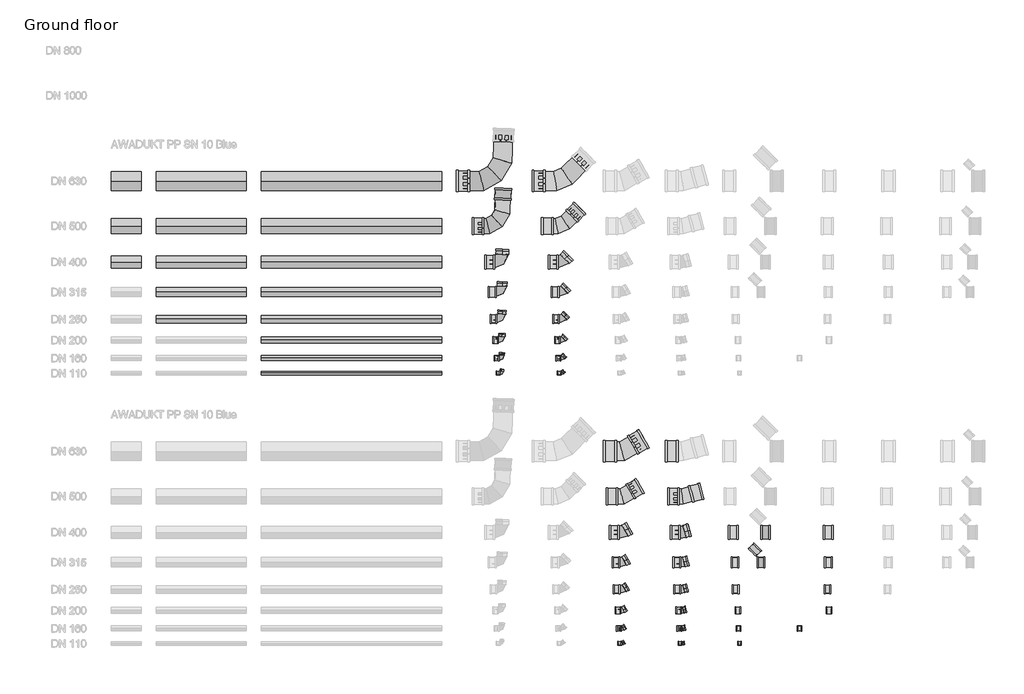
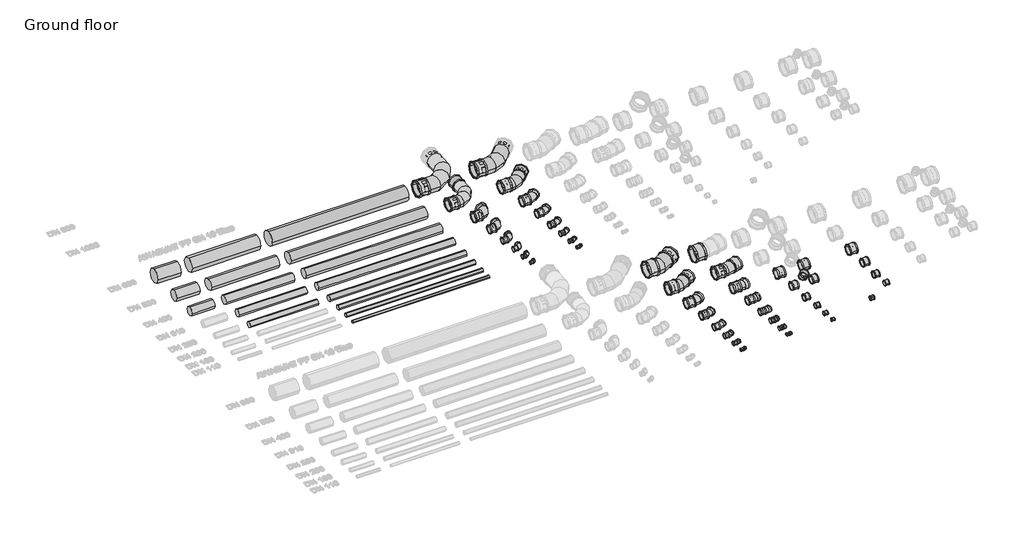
# One storey, part 2 of 10: 82 pipe fittings, 16 pipe segments.
"""IFC4 building model written with IfcOpenShell, lengths in millimetres."""

from ifc_helpers import new_model, si_unit, point, frame, frame_2d, origin, place, context, project, spatial, circle_curve, trimmed, segment, composite_curve, outline, extrude, transform, mapped, element, save
from components import pipe_fitting_e5a81f0f, pipe_fitting_366f8f33, pipe_fitting_0ebad727, pipe_fitting_3dc9645f, pipe_fitting_b5a722ff, pipe_fitting_a818c1c7, pipe_fitting_9bc79c39, pipe_fitting_2c23b5e5, blue_8c50e030, blue_66bd3a30, blue_cd4b49a2, blue_58710f0b, blue_3e8714aa, blue_1fd363ef, blue_119fea42, blue_49925300, blue_168d1bee, blue_045a93d3, blue_ad261573, blue_5f6e9122, blue_fd0dfc69, blue_0a20ea5d, blue_b37b0867, blue_8a6e1d2f, blue_a2c14ece, blue_55e6ac91, blue_4c46b765, blue_4c692024, blue_db9835d6, blue_7109e013, blue_6a90c062, blue_68ca3d6e, blue_9c2ccc73, blue_e60a5e92, blue_be0330f0, orange_dd9ac047, orange_127dd680, blue_0398ec3c, orange_d04369bb

model = new_model("IFC4")

# Units and contexts
model_context = context("Model", 3, world=origin())
ifc_project = project(units=[si_unit("LENGTHUNIT", "METRE", prefix="MILLI")], contexts=[model_context])

# Site, building, storey
site = spatial("IfcSite", under=ifc_project)
building = spatial("IfcBuilding", under=site)
storey = spatial("IfcBuildingStorey", under=building, Name="Ground floor", Elevation=0.0)

# Pipe fittings
placement = place(None, origin())
pipe_fitting_shape = pipe_fitting_e5a81f0f(model_context)
element("IfcPipeFitting", 1, ObjectType="AWADUKT PP Union DSM : Orange No PID", at=placement, inside=storey, context=model_context, shape_type="MappedRepresentation", body=[
    mapped(pipe_fitting_shape, transform((12677.0, 11700.0, 0.0), x_axis=(1.0, 0.0, 0.0), y_axis=(0.0, 1.0, 0.0), z_axis=(0.0, 0.0, 1.0))),
])
element("IfcPipeFitting", 2, ObjectType="AWADUKT PP Union DSM : Orange No PID", at=placement, inside=storey, context=model_context, shape_type="MappedRepresentation", body=[
    mapped(pipe_fitting_shape, transform((14771.0, 11700.0, 0.0), x_axis=(1.0, 0.0, 0.0), y_axis=(0.0, 1.0, 0.0), z_axis=(0.0, 0.0, 1.0))),
])
pipe_fitting_2_shape = pipe_fitting_366f8f33(model_context)
element("IfcPipeFitting", 3, ObjectType="AWADUKT PP Union DSM : Blue No PID", at=placement, inside=storey, context=model_context, shape_type="MappedRepresentation", body=[
    mapped(pipe_fitting_2_shape, transform((17534.3376741, 6708.5, 0.0), x_axis=(0.8660254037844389, 0.49999999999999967, 0.0), y_axis=(-0.49999999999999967, 0.8660254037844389, 0.0), z_axis=(0.0, 0.0, 1.0))),
])
element("IfcPipeFitting", 4, ObjectType="AWADUKT PP Union DSM : Blue No PID", at=placement, inside=storey, context=model_context, shape_type="MappedRepresentation", body=[
    mapped(pipe_fitting_2_shape, transform((16590.0, 6400.0, 0.0), x_axis=(1.0, 0.0, 0.0), y_axis=(0.0, 1.0, 0.0), z_axis=(0.0, 0.0, 1.0))),
])
element("IfcPipeFitting", 5, ObjectType="AWADUKT PP Union DSM : Blue No PID", at=placement, inside=storey, context=model_context, shape_type="MappedRepresentation", body=[
    mapped(pipe_fitting_2_shape, transform((18648.0, 6400.0, 0.0), x_axis=(1.0, 0.0, 0.0), y_axis=(0.0, 1.0, 0.0), z_axis=(0.0, 0.0, 1.0))),
])
pipe_fitting_3_shape = pipe_fitting_0ebad727(model_context)
element("IfcPipeFitting", 6, ObjectType="AWADUKT PP Union DSM : Blue No PID", at=placement, inside=storey, context=model_context, shape_type="MappedRepresentation", body=[
    mapped(pipe_fitting_3_shape, transform((16918.0, 0.0, 0.0), x_axis=(1.0, 0.0, 0.0), y_axis=(0.0, 1.0, 0.0), z_axis=(0.0, 0.0, 1.0))),
])
element("IfcPipeFitting", 7, ObjectType="AWADUKT PP Union DSM : Blue No PID", at=placement, inside=storey, context=model_context, shape_type="MappedRepresentation", body=[
    mapped(pipe_fitting_3_shape, transform((18927.0, 0.0, 0.0), x_axis=(1.0, 0.0, 0.0), y_axis=(0.0, 1.0, 0.0), z_axis=(0.0, 0.0, 1.0))),
])
element("IfcPipeFitting", 8, ObjectType="AWADUKT PP Union DSM : Blue No PID", at=placement, inside=storey, context=model_context, shape_type="MappedRepresentation", body=[
    mapped(pipe_fitting_3_shape, transform((20908.0, 0.0, 0.0), x_axis=(1.0, 0.0, 0.0), y_axis=(0.0, 1.0, 0.0), z_axis=(0.0, 0.0, 1.0))),
])
pipe_fitting_4_shape = pipe_fitting_3dc9645f(model_context)
element("IfcPipeFitting", 9, ObjectType="AWADUKT PP Union DSM : Blue No PID", at=placement, inside=storey, context=model_context, shape_type="MappedRepresentation", body=[
    mapped(pipe_fitting_4_shape, transform((16890.0, 500.0, 0.0), x_axis=(1.0, 0.0, 0.0), y_axis=(0.0, 1.0, 0.0), z_axis=(0.0, 0.0, 1.0))),
])
element("IfcPipeFitting", 10, ObjectType="AWADUKT PP Union DSM : Blue No PID", at=placement, inside=storey, context=model_context, shape_type="MappedRepresentation", body=[
    mapped(pipe_fitting_4_shape, transform((18902.0, 500.0, 0.0), x_axis=(1.0, 0.0, 0.0), y_axis=(0.0, 1.0, 0.0), z_axis=(0.0, 0.0, 1.0))),
])
element("IfcPipeFitting", 11, ObjectType="AWADUKT PP Union DSM : Blue No PID", at=placement, inside=storey, context=model_context, shape_type="MappedRepresentation", body=[
    mapped(pipe_fitting_4_shape, transform((20872.0, 500.0, 0.0), x_axis=(1.0, 0.0, 0.0), y_axis=(0.0, 1.0, 0.0), z_axis=(0.0, 0.0, 1.0))),
])
element("IfcPipeFitting", 12, ObjectType="AWADUKT PP Union DSM : Blue No PID", at=placement, inside=storey, context=model_context, shape_type="MappedRepresentation", body=[
    mapped(pipe_fitting_4_shape, transform((22905.0, 500.0, 0.0), x_axis=(1.0, 0.0, 0.0), y_axis=(0.0, 1.0, 0.0), z_axis=(0.0, 0.0, 1.0))),
])
pipe_fitting_5_shape = pipe_fitting_b5a722ff(model_context)
element("IfcPipeFitting", 13, ObjectType="AWADUKT PP Union DSM : Blue No PID", at=placement, inside=storey, context=model_context, shape_type="MappedRepresentation", body=[
    mapped(pipe_fitting_5_shape, transform((16863.5, 1100.0, 0.0), x_axis=(1.0, 0.0, 0.0), y_axis=(0.0, 1.0, 0.0), z_axis=(0.0, 0.0, 1.0))),
])
element("IfcPipeFitting", 14, ObjectType="AWADUKT PP Union DSM : Blue No PID", at=placement, inside=storey, context=model_context, shape_type="MappedRepresentation", body=[
    mapped(pipe_fitting_5_shape, transform((18878.5, 1100.0, 0.0), x_axis=(1.0, 0.0, 0.0), y_axis=(0.0, 1.0, 0.0), z_axis=(0.0, 0.0, 1.0))),
])
element("IfcPipeFitting", 15, ObjectType="AWADUKT PP Union DSM : Blue No PID", at=placement, inside=storey, context=model_context, shape_type="MappedRepresentation", body=[
    mapped(pipe_fitting_5_shape, transform((20855.1, 1100.0, 0.0), x_axis=(1.0, 0.0, 0.0), y_axis=(0.0, 1.0, 0.0), z_axis=(0.0, 0.0, 1.0))),
])
element("IfcPipeFitting", 16, ObjectType="AWADUKT PP Union DSM : Blue No PID", at=placement, inside=storey, context=model_context, shape_type="MappedRepresentation", body=[
    mapped(pipe_fitting_5_shape, transform((23884.4, 1100.0, 0.0), x_axis=(1.0, 0.0, 0.0), y_axis=(0.0, 1.0, 0.0), z_axis=(0.0, 0.0, 1.0))),
])
pipe_fitting_6_shape = pipe_fitting_a818c1c7(model_context)
element("IfcPipeFitting", 17, ObjectType="AWADUKT PP Union DSM : Blue No PID", at=placement, inside=storey, context=model_context, shape_type="MappedRepresentation", body=[
    mapped(pipe_fitting_6_shape, transform((16817.0, 1800.0, 0.0), x_axis=(1.0, 0.0, 0.0), y_axis=(0.0, 1.0, 0.0), z_axis=(0.0, 0.0, 1.0))),
])
element("IfcPipeFitting", 18, ObjectType="AWADUKT PP Union DSM : Blue No PID", at=placement, inside=storey, context=model_context, shape_type="MappedRepresentation", body=[
    mapped(pipe_fitting_6_shape, transform((18835.0, 1800.0, 0.0), x_axis=(1.0, 0.0, 0.0), y_axis=(0.0, 1.0, 0.0), z_axis=(0.0, 0.0, 1.0))),
])
element("IfcPipeFitting", 19, ObjectType="AWADUKT PP Union DSM : Blue No PID", at=placement, inside=storey, context=model_context, shape_type="MappedRepresentation", body=[
    mapped(pipe_fitting_6_shape, transform((20777.0, 1800.0, 0.0), x_axis=(1.0, 0.0, 0.0), y_axis=(0.0, 1.0, 0.0), z_axis=(0.0, 0.0, 1.0))),
])
element("IfcPipeFitting", 20, ObjectType="AWADUKT PP Union DSM : Blue No PID", at=placement, inside=storey, context=model_context, shape_type="MappedRepresentation", body=[
    mapped(pipe_fitting_6_shape, transform((23832.0, 1800.0, 0.0), x_axis=(1.0, 0.0, 0.0), y_axis=(0.0, 1.0, 0.0), z_axis=(0.0, 0.0, 1.0))),
])
element("IfcPipeFitting", 21, ObjectType="AWADUKT PP Union DSM : Blue No PID", at=placement, inside=storey, context=model_context, shape_type="MappedRepresentation", body=[
    mapped(pipe_fitting_shape, transform((16796.0, 2700.0, 0.0), x_axis=(1.0, 0.0, 0.0), y_axis=(0.0, 1.0, 0.0), z_axis=(0.0, 0.0, 1.0))),
])
element("IfcPipeFitting", 22, ObjectType="AWADUKT PP Union DSM : Blue No PID", at=placement, inside=storey, context=model_context, shape_type="MappedRepresentation", body=[
    mapped(pipe_fitting_shape, transform((18820.0, 2700.0, 0.0), x_axis=(1.0, 0.0, 0.0), y_axis=(0.0, 1.0, 0.0), z_axis=(0.0, 0.0, 1.0))),
])
element("IfcPipeFitting", 23, ObjectType="AWADUKT PP Union DSM : Blue No PID", at=placement, inside=storey, context=model_context, shape_type="MappedRepresentation", body=[
    mapped(pipe_fitting_shape, transform((20753.0, 2700.0, 0.0), x_axis=(1.0, 0.0, 0.0), y_axis=(0.0, 1.0, 0.0), z_axis=(0.0, 0.0, 1.0))),
])
element("IfcPipeFitting", 24, ObjectType="AWADUKT PP Union DSM : Blue No PID", at=placement, inside=storey, context=model_context, shape_type="MappedRepresentation", body=[
    mapped(pipe_fitting_shape, transform((21629.0, 2700.0, 0.0), x_axis=(-1.0, 0.0, 0.0), y_axis=(0.0, -1.0, 0.0), z_axis=(0.0, 0.0, 1.0))),
])
element("IfcPipeFitting", 25, ObjectType="AWADUKT PP Union DSM : Blue No PID", at=placement, inside=storey, context=model_context, shape_type="MappedRepresentation", body=[
    mapped(pipe_fitting_shape, transform((21420.7285348, 3120.7285348, 0.0), x_axis=(0.7071067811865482, 0.7071067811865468, 0.0), y_axis=(-0.7071067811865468, 0.7071067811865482, 0.0), z_axis=(0.0, 0.0, 1.0))),
])
element("IfcPipeFitting", 26, ObjectType="AWADUKT PP Union DSM : Blue No PID", at=placement, inside=storey, context=model_context, shape_type="MappedRepresentation", body=[
    mapped(pipe_fitting_shape, transform((23863.0, 2700.0, 0.0), x_axis=(1.0, 0.0, 0.0), y_axis=(0.0, 1.0, 0.0), z_axis=(0.0, 0.0, 1.0))),
])
pipe_fitting_7_shape = pipe_fitting_9bc79c39(model_context)
element("IfcPipeFitting", 27, ObjectType="AWADUKT PP Union DSM : Blue No PID", at=placement, inside=storey, context=model_context, shape_type="MappedRepresentation", body=[
    mapped(pipe_fitting_7_shape, transform((16738.0, 3700.0, 0.0), x_axis=(1.0, 0.0, 0.0), y_axis=(0.0, 1.0, 0.0), z_axis=(0.0, 0.0, 1.0))),
])
element("IfcPipeFitting", 28, ObjectType="AWADUKT PP Union DSM : Blue No PID", at=placement, inside=storey, context=model_context, shape_type="MappedRepresentation", body=[
    mapped(pipe_fitting_7_shape, transform((18764.4, 3700.0, 0.0), x_axis=(1.0, 0.0, 0.0), y_axis=(0.0, 1.0, 0.0), z_axis=(0.0, 0.0, 1.0))),
])
element("IfcPipeFitting", 29, ObjectType="AWADUKT PP Union DSM : Blue No PID", at=placement, inside=storey, context=model_context, shape_type="MappedRepresentation", body=[
    mapped(pipe_fitting_7_shape, transform((20698.0, 3700.0, 0.0), x_axis=(1.0, 0.0, 0.0), y_axis=(0.0, 1.0, 0.0), z_axis=(0.0, 0.0, 1.0))),
])
element("IfcPipeFitting", 30, ObjectType="AWADUKT PP Union DSM : Blue No PID", at=placement, inside=storey, context=model_context, shape_type="MappedRepresentation", body=[
    mapped(pipe_fitting_7_shape, transform((21777.0, 3700.0, 0.0), x_axis=(-1.0, 0.0, 0.0), y_axis=(0.0, -1.0, 0.0), z_axis=(0.0, 0.0, 1.0))),
])
element("IfcPipeFitting", 31, ObjectType="AWADUKT PP Union DSM : Blue No PID", at=placement, inside=storey, context=model_context, shape_type="MappedRepresentation", body=[
    mapped(pipe_fitting_7_shape, transform((23854.0, 3700.0, 0.0), x_axis=(1.0, 0.0, 0.0), y_axis=(0.0, 1.0, 0.0), z_axis=(0.0, 0.0, 1.0))),
])
pipe_fitting_8_shape = pipe_fitting_2c23b5e5(model_context)
element("IfcPipeFitting", 32, ObjectType="AWADUKT PP Union DSM : Blue No PID", at=placement, inside=storey, context=model_context, shape_type="MappedRepresentation", body=[
    mapped(pipe_fitting_8_shape, transform((17429.5486003, 5148.0, 0.0), x_axis=(0.8660254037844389, 0.49999999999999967, 0.0), y_axis=(-0.49999999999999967, 0.8660254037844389, 0.0), z_axis=(0.0, 0.0, 1.0))),
])
element("IfcPipeFitting", 33, ObjectType="AWADUKT PP Union DSM : Blue No PID", at=placement, inside=storey, context=model_context, shape_type="MappedRepresentation", body=[
    mapped(pipe_fitting_8_shape, transform((16659.0, 4900.0, 0.0), x_axis=(1.0, 0.0, 0.0), y_axis=(0.0, 1.0, 0.0), z_axis=(0.0, 0.0, 1.0))),
])
element("IfcPipeFitting", 34, ObjectType="AWADUKT PP Union DSM : Blue No PID", at=placement, inside=storey, context=model_context, shape_type="MappedRepresentation", body=[
    mapped(pipe_fitting_8_shape, transform((19458.8147675, 5022.9390464, 0.0), x_axis=(0.9659258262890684, 0.2588190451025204, 0.0), y_axis=(-0.2588190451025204, 0.9659258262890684, 0.0), z_axis=(0.0, 0.0, 1.0))),
])
element("IfcPipeFitting", 35, ObjectType="AWADUKT PP Union DSM : Blue No PID", at=placement, inside=storey, context=model_context, shape_type="MappedRepresentation", body=[
    mapped(pipe_fitting_8_shape, transform((18707.0, 4900.0, 0.0), x_axis=(1.0, 0.0, 0.0), y_axis=(0.0, 1.0, 0.0), z_axis=(0.0, 0.0, 1.0))),
])
element("IfcPipeFitting", 36, ObjectType="AWADUKT PP Union DSM : Orange No PID", at=placement, inside=storey, context=model_context, shape_type="MappedRepresentation", body=[
    mapped(pipe_fitting_3_shape, transform((12875.0, 9000.0, 0.0), x_axis=(1.0, 0.0, 0.0), y_axis=(0.0, 1.0, 0.0), z_axis=(0.0, 0.0, 1.0))),
])
element("IfcPipeFitting", 37, ObjectType="AWADUKT PP Union DSM : Orange No PID", at=placement, inside=storey, context=model_context, shape_type="MappedRepresentation", body=[
    mapped(pipe_fitting_3_shape, transform((14909.0, 9000.0, 0.0), x_axis=(1.0, 0.0, 0.0), y_axis=(0.0, 1.0, 0.0), z_axis=(0.0, 0.0, 1.0))),
])
element("IfcPipeFitting", 38, ObjectType="AWADUKT PP Union DSM : Orange No PID", at=placement, inside=storey, context=model_context, shape_type="MappedRepresentation", body=[
    mapped(pipe_fitting_4_shape, transform((12826.0, 9500.0, 0.0), x_axis=(1.0, 0.0, 0.0), y_axis=(0.0, 1.0, 0.0), z_axis=(0.0, 0.0, 1.0))),
])
element("IfcPipeFitting", 39, ObjectType="AWADUKT PP Union DSM : Orange No PID", at=placement, inside=storey, context=model_context, shape_type="MappedRepresentation", body=[
    mapped(pipe_fitting_4_shape, transform((14877.0, 9500.0, 0.0), x_axis=(1.0, 0.0, 0.0), y_axis=(0.0, 1.0, 0.0), z_axis=(0.0, 0.0, 1.0))),
])
element("IfcPipeFitting", 40, ObjectType="AWADUKT PP Union DSM : Orange No PID", at=placement, inside=storey, context=model_context, shape_type="MappedRepresentation", body=[
    mapped(pipe_fitting_5_shape, transform((12788.5, 10100.0, 0.0), x_axis=(1.0, 0.0, 0.0), y_axis=(0.0, 1.0, 0.0), z_axis=(0.0, 0.0, 1.0))),
])
element("IfcPipeFitting", 41, ObjectType="AWADUKT PP Union DSM : Orange No PID", at=placement, inside=storey, context=model_context, shape_type="MappedRepresentation", body=[
    mapped(pipe_fitting_5_shape, transform((14847.5, 10100.0, 0.0), x_axis=(1.0, 0.0, 0.0), y_axis=(0.0, 1.0, 0.0), z_axis=(0.0, 0.0, 1.0))),
])
element("IfcPipeFitting", 42, ObjectType="AWADUKT PP Union DSM : Orange No PID", at=placement, inside=storey, context=model_context, shape_type="MappedRepresentation", body=[
    mapped(pipe_fitting_6_shape, transform((12722.0, 10800.0, 0.0), x_axis=(1.0, 0.0, 0.0), y_axis=(0.0, 1.0, 0.0), z_axis=(0.0, 0.0, 1.0))),
])
element("IfcPipeFitting", 43, ObjectType="AWADUKT PP Union DSM : Orange No PID", at=placement, inside=storey, context=model_context, shape_type="MappedRepresentation", body=[
    mapped(pipe_fitting_6_shape, transform((14797.0, 10800.0, 0.0), x_axis=(1.0, 0.0, 0.0), y_axis=(0.0, 1.0, 0.0), z_axis=(0.0, 0.0, 1.0))),
])
element("IfcPipeFitting", 44, ObjectType="AWADUKT PP Union DSM : Orange No PID", at=placement, inside=storey, context=model_context, shape_type="MappedRepresentation", body=[
    mapped(pipe_fitting_7_shape, transform((12597.0, 12700.0, 0.0), x_axis=(1.0, 0.0, 0.0), y_axis=(0.0, 1.0, 0.0), z_axis=(0.0, 0.0, 1.0))),
])
element("IfcPipeFitting", 45, ObjectType="AWADUKT PP Union DSM : Orange No PID", at=placement, inside=storey, context=model_context, shape_type="MappedRepresentation", body=[
    mapped(pipe_fitting_7_shape, transform((14709.0, 12700.0, 0.0), x_axis=(1.0, 0.0, 0.0), y_axis=(0.0, 1.0, 0.0), z_axis=(0.0, 0.0, 1.0))),
])
element("IfcPipeFitting", 46, ObjectType="AWADUKT PP Union DSM : Orange No PID", at=placement, inside=storey, context=model_context, shape_type="MappedRepresentation", body=[
    mapped(pipe_fitting_8_shape, transform((13038.6957564, 14955.2907838, 0.0), x_axis=(0.036643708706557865, 0.9993283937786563, 0.0), y_axis=(-0.9993283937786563, 0.036643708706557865, 0.0), z_axis=(0.0, 0.0, 1.0))),
])
element("IfcPipeFitting", 47, ObjectType="AWADUKT PP Union DSM : Orange No PID", at=placement, inside=storey, context=model_context, shape_type="MappedRepresentation", body=[
    mapped(pipe_fitting_8_shape, transform((12198.0, 13900.0, 0.0), x_axis=(1.0, 0.0, 0.0), y_axis=(0.0, 1.0, 0.0), z_axis=(0.0, 0.0, 1.0))),
])
element("IfcPipeFitting", 48, ObjectType="AWADUKT PP Union DSM : Orange No PID", at=placement, inside=storey, context=model_context, shape_type="MappedRepresentation", body=[
    mapped(pipe_fitting_8_shape, transform((15458.2051942, 14358.2051942, 0.0), x_axis=(0.7071067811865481, 0.707106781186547, 0.0), y_axis=(-0.707106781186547, 0.7071067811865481, 0.0), z_axis=(0.0, 0.0, 1.0))),
])
element("IfcPipeFitting", 49, ObjectType="AWADUKT PP Union DSM : Orange No PID", at=placement, inside=storey, context=model_context, shape_type="MappedRepresentation", body=[
    mapped(pipe_fitting_8_shape, transform((14509.0, 13900.0, 0.0), x_axis=(1.0, 0.0, 0.0), y_axis=(0.0, 1.0, 0.0), z_axis=(0.0, 0.0, 1.0))),
])
element("IfcPipeFitting", 50, ObjectType="AWADUKT PP Union DSM : Orange No PID", at=placement, inside=storey, context=model_context, shape_type="MappedRepresentation", body=[
    mapped(pipe_fitting_2_shape, transform((11705.5, 15400.0, 0.0), x_axis=(1.0, 0.0, 0.0), y_axis=(0.0, 1.0, 0.0), z_axis=(0.0, 0.0, 1.0))),
])
element("IfcPipeFitting", 51, ObjectType="AWADUKT PP Union DSM : Orange No PID", at=placement, inside=storey, context=model_context, shape_type="MappedRepresentation", body=[
    mapped(pipe_fitting_2_shape, transform((14220.0, 15400.0, 0.0), x_axis=(1.0, 0.0, 0.0), y_axis=(0.0, 1.0, 0.0), z_axis=(0.0, 0.0, 1.0))),
])
blue_shape = blue_8c50e030(model_context)
element("IfcPipeFitting", 52, ObjectType="AWADUKT PP SN10 Bend : Blue", at=placement, inside=storey, context=model_context, shape_type="MappedRepresentation", body=[
    mapped(blue_shape, transform((17000.0, 0.0, 0.0), x_axis=(1.0, 0.0, 0.0), y_axis=(0.0, 1.0, 0.0), z_axis=(0.0, 0.0, 1.0))),
])
blue_2_shape = blue_66bd3a30(model_context)
element("IfcPipeFitting", 53, ObjectType="AWADUKT PP SN10 Bend : Blue", at=placement, inside=storey, context=model_context, shape_type="MappedRepresentation", body=[
    mapped(blue_2_shape, transform((17000.0, 500.0, 0.0), x_axis=(1.0, 0.0, 0.0), y_axis=(0.0, 1.0, 0.0), z_axis=(0.0, 0.0, 1.0))),
])
blue_3_shape = blue_cd4b49a2(model_context)
element("IfcPipeFitting", 54, ObjectType="AWADUKT PP SN10 Bend : Blue", at=placement, inside=storey, context=model_context, shape_type="MappedRepresentation", body=[
    mapped(blue_3_shape, transform((17000.0, 1100.0, 0.0), x_axis=(1.0, 0.0, 0.0), y_axis=(0.0, 1.0, 0.0), z_axis=(0.0, 0.0, 1.0))),
])
blue_4_shape = blue_58710f0b(model_context)
element("IfcPipeFitting", 55, ObjectType="AWADUKT PP SN10 Bend : Blue", at=placement, inside=storey, context=model_context, shape_type="MappedRepresentation", body=[
    mapped(blue_4_shape, transform((17000.0, 1800.0, 0.0), x_axis=(1.0, 0.0, 0.0), y_axis=(0.0, 1.0, 0.0), z_axis=(0.0, 0.0, 1.0))),
])
blue_5_shape = blue_3e8714aa(model_context)
element("IfcPipeFitting", 56, ObjectType="AWADUKT PP SN10 Bend : Blue", at=placement, inside=storey, context=model_context, shape_type="MappedRepresentation", body=[
    mapped(blue_5_shape, transform((17000.0, 2700.0, 0.0), x_axis=(1.0, 0.0, 0.0), y_axis=(0.0, 1.0, 0.0), z_axis=(0.0, 0.0, 1.0))),
])
blue_6_shape = blue_1fd363ef(model_context)
element("IfcPipeFitting", 57, ObjectType="AWADUKT PP SN10 Bend : Blue", at=placement, inside=storey, context=model_context, shape_type="MappedRepresentation", body=[
    mapped(blue_6_shape, transform((17000.0, 3700.0, 0.0), x_axis=(1.0, 0.0, 0.0), y_axis=(0.0, 1.0, 0.0), z_axis=(0.0, 0.0, 1.0))),
])
blue_7_shape = blue_119fea42(model_context)
element("IfcPipeFitting", 58, ObjectType="AWADUKT PP SN10 Bend : Blue", at=placement, inside=storey, context=model_context, shape_type="MappedRepresentation", body=[
    mapped(blue_7_shape, transform((19000.0, 0.0, 0.0), x_axis=(1.0, 0.0, 0.0), y_axis=(0.0, 1.0, 0.0), z_axis=(0.0, 0.0, 1.0))),
])
blue_8_shape = blue_49925300(model_context)
element("IfcPipeFitting", 59, ObjectType="AWADUKT PP SN10 Bend : Blue", at=placement, inside=storey, context=model_context, shape_type="MappedRepresentation", body=[
    mapped(blue_8_shape, transform((19000.0, 500.0, 0.0), x_axis=(1.0, 0.0, 0.0), y_axis=(0.0, 1.0, 0.0), z_axis=(0.0, 0.0, 1.0))),
])
blue_9_shape = blue_168d1bee(model_context)
element("IfcPipeFitting", 60, ObjectType="AWADUKT PP SN10 Bend : Blue", at=placement, inside=storey, context=model_context, shape_type="MappedRepresentation", body=[
    mapped(blue_9_shape, transform((19000.0, 1100.0, 0.0), x_axis=(1.0, 0.0, 0.0), y_axis=(0.0, 1.0, 0.0), z_axis=(0.0, 0.0, 1.0))),
])
blue_10_shape = blue_045a93d3(model_context)
element("IfcPipeFitting", 61, ObjectType="AWADUKT PP SN10 Bend : Blue", at=placement, inside=storey, context=model_context, shape_type="MappedRepresentation", body=[
    mapped(blue_10_shape, transform((19000.0, 1800.0, 0.0), x_axis=(1.0, 0.0, 0.0), y_axis=(0.0, 1.0, 0.0), z_axis=(0.0, 0.0, 1.0))),
])
blue_11_shape = blue_ad261573(model_context)
element("IfcPipeFitting", 62, ObjectType="AWADUKT PP SN10 Bend : Blue", at=placement, inside=storey, context=model_context, shape_type="MappedRepresentation", body=[
    mapped(blue_11_shape, transform((19000.0, 2700.0, 0.0), x_axis=(1.0, 0.0, 0.0), y_axis=(0.0, 1.0, 0.0), z_axis=(0.0, 0.0, 1.0))),
])
blue_12_shape = blue_5f6e9122(model_context)
element("IfcPipeFitting", 63, ObjectType="AWADUKT PP SN10 Bend : Blue", at=placement, inside=storey, context=model_context, shape_type="MappedRepresentation", body=[
    mapped(blue_12_shape, transform((19000.0, 3700.0, 0.0), x_axis=(1.0, 0.0, 0.0), y_axis=(0.0, 1.0, 0.0), z_axis=(0.0, 0.0, 1.0))),
])
blue_13_shape = blue_fd0dfc69(model_context)
element("IfcPipeFitting", 64, ObjectType="AWADUKT PP SN10 SBend : Blue", at=placement, inside=storey, context=model_context, shape_type="MappedRepresentation", body=[
    mapped(blue_13_shape, transform((17000.0, 4900.0, 0.0), x_axis=(1.0, 0.0, 0.0), y_axis=(0.0, 1.0, 0.0), z_axis=(0.0, 0.0, 1.0))),
])
blue_14_shape = blue_0a20ea5d(model_context)
element("IfcPipeFitting", 65, ObjectType="AWADUKT PP SN10 SBend : Blue", at=placement, inside=storey, context=model_context, shape_type="MappedRepresentation", body=[
    mapped(blue_14_shape, transform((17000.0, 6400.0, 0.0), x_axis=(1.0, 0.0, 0.0), y_axis=(0.0, 1.0, 0.0), z_axis=(0.0, 0.0, 1.0))),
])
blue_15_shape = blue_b37b0867(model_context)
element("IfcPipeFitting", 66, ObjectType="AWADUKT PP SN10 SBend : Blue", at=placement, inside=storey, context=model_context, shape_type="MappedRepresentation", body=[
    mapped(blue_15_shape, transform((19000.0, 4900.0, 0.0), x_axis=(1.0, 0.0, 0.0), y_axis=(0.0, 1.0, 0.0), z_axis=(0.0, 0.0, 1.0))),
])
blue_16_shape = blue_8a6e1d2f(model_context)
element("IfcPipeFitting", 67, ObjectType="AWADUKT PP SN10 Bend : Orange", at=placement, inside=storey, context=model_context, shape_type="MappedRepresentation", body=[
    mapped(blue_16_shape, transform((15000.0, 12700.0, 0.0), x_axis=(1.0, 0.0, 0.0), y_axis=(0.0, 1.0, 0.0), z_axis=(0.0, 0.0, 1.0))),
])
blue_17_shape = blue_a2c14ece(model_context)
element("IfcPipeFitting", 68, ObjectType="AWADUKT PP SN10 Bend : Orange", at=placement, inside=storey, context=model_context, shape_type="MappedRepresentation", body=[
    mapped(blue_17_shape, transform((13000.0, 9000.0, 0.0), x_axis=(1.0, 0.0, 0.0), y_axis=(0.0, 1.0, 0.0), z_axis=(0.0, 0.0, 1.0))),
])
blue_18_shape = blue_55e6ac91(model_context)
element("IfcPipeFitting", 69, ObjectType="AWADUKT PP SN10 Bend : Orange", at=placement, inside=storey, context=model_context, shape_type="MappedRepresentation", body=[
    mapped(blue_18_shape, transform((13000.0, 9500.0, 0.0), x_axis=(1.0, 0.0, 0.0), y_axis=(0.0, 1.0, 0.0), z_axis=(0.0, 0.0, 1.0))),
])
blue_19_shape = blue_4c46b765(model_context)
element("IfcPipeFitting", 70, ObjectType="AWADUKT PP SN10 Bend : Orange", at=placement, inside=storey, context=model_context, shape_type="MappedRepresentation", body=[
    mapped(blue_19_shape, transform((13000.0, 10100.0, 0.0), x_axis=(1.0, 0.0, 0.0), y_axis=(0.0, 1.0, 0.0), z_axis=(0.0, 0.0, 1.0))),
])
blue_20_shape = blue_4c692024(model_context)
element("IfcPipeFitting", 71, ObjectType="AWADUKT PP SN10 Bend : Orange", at=placement, inside=storey, context=model_context, shape_type="MappedRepresentation", body=[
    mapped(blue_20_shape, transform((13000.0, 10800.0, 0.0), x_axis=(1.0, 0.0, 0.0), y_axis=(0.0, 1.0, 0.0), z_axis=(0.0, 0.0, 1.0))),
])
blue_21_shape = blue_db9835d6(model_context)
element("IfcPipeFitting", 72, ObjectType="AWADUKT PP SN10 Bend : Orange", at=placement, inside=storey, context=model_context, shape_type="MappedRepresentation", body=[
    mapped(blue_21_shape, transform((13000.0, 11700.0, 0.0), x_axis=(1.0, 0.0, 0.0), y_axis=(0.0, 1.0, 0.0), z_axis=(0.0, 0.0, 1.0))),
])
blue_22_shape = blue_7109e013(model_context)
element("IfcPipeFitting", 73, ObjectType="AWADUKT PP SN10 Bend : Orange", at=placement, inside=storey, context=model_context, shape_type="MappedRepresentation", body=[
    mapped(blue_22_shape, transform((13000.0, 12700.0, 0.0), x_axis=(1.0, 0.0, 0.0), y_axis=(0.0, 1.0, 0.0), z_axis=(0.0, 0.0, 1.0))),
])
blue_23_shape = blue_6a90c062(model_context)
element("IfcPipeFitting", 74, ObjectType="AWADUKT PP SN10 Bend : Orange", at=placement, inside=storey, context=model_context, shape_type="MappedRepresentation", body=[
    mapped(blue_23_shape, transform((15000.0, 9000.0, 0.0), x_axis=(1.0, 0.0, 0.0), y_axis=(0.0, 1.0, 0.0), z_axis=(0.0, 0.0, 1.0))),
])
blue_24_shape = blue_68ca3d6e(model_context)
element("IfcPipeFitting", 75, ObjectType="AWADUKT PP SN10 Bend : Orange", at=placement, inside=storey, context=model_context, shape_type="MappedRepresentation", body=[
    mapped(blue_24_shape, transform((15000.0, 9500.0, 0.0), x_axis=(1.0, 0.0, 0.0), y_axis=(0.0, 1.0, 0.0), z_axis=(0.0, 0.0, 1.0))),
])
blue_25_shape = blue_9c2ccc73(model_context)
element("IfcPipeFitting", 76, ObjectType="AWADUKT PP SN10 Bend : Orange", at=placement, inside=storey, context=model_context, shape_type="MappedRepresentation", body=[
    mapped(blue_25_shape, transform((15000.0, 10100.0, 0.0), x_axis=(1.0, 0.0, 0.0), y_axis=(0.0, 1.0, 0.0), z_axis=(0.0, 0.0, 1.0))),
])
blue_26_shape = blue_e60a5e92(model_context)
element("IfcPipeFitting", 77, ObjectType="AWADUKT PP SN10 Bend : Orange", at=placement, inside=storey, context=model_context, shape_type="MappedRepresentation", body=[
    mapped(blue_26_shape, transform((15000.0, 10800.0, 0.0), x_axis=(1.0, 0.0, 0.0), y_axis=(0.0, 1.0, 0.0), z_axis=(0.0, 0.0, 1.0))),
])
blue_27_shape = blue_be0330f0(model_context)
element("IfcPipeFitting", 78, ObjectType="AWADUKT PP SN10 Bend : Orange", at=placement, inside=storey, context=model_context, shape_type="MappedRepresentation", body=[
    mapped(blue_27_shape, transform((15000.0, 11700.0, 0.0), x_axis=(1.0, 0.0, 0.0), y_axis=(0.0, 1.0, 0.0), z_axis=(0.0, 0.0, 1.0))),
])
orange_shape = orange_dd9ac047(model_context)
element("IfcPipeFitting", 79, ObjectType="AWADUKT PP SN10 SBend : Orange", at=placement, inside=storey, context=model_context, shape_type="MappedRepresentation", body=[
    mapped(orange_shape, transform((13000.0, 13900.0, 0.0), x_axis=(1.0, 0.0, 0.0), y_axis=(0.0, 1.0, 0.0), z_axis=(0.0, 0.0, 1.0))),
])
orange_2_shape = orange_127dd680(model_context)
element("IfcPipeFitting", 80, ObjectType="AWADUKT PP SN10 SBend : Orange", at=placement, inside=storey, context=model_context, shape_type="MappedRepresentation", body=[
    mapped(orange_2_shape, transform((13000.0, 15400.0, 0.0), x_axis=(1.0, 0.0, 0.0), y_axis=(0.0, 1.0, 0.0), z_axis=(0.0, 0.0, 1.0))),
])
blue_28_shape = blue_0398ec3c(model_context)
element("IfcPipeFitting", 81, ObjectType="AWADUKT PP SN10 SBend : Orange", at=placement, inside=storey, context=model_context, shape_type="MappedRepresentation", body=[
    mapped(blue_28_shape, transform((15000.0, 13900.0, 0.0), x_axis=(1.0, 0.0, 0.0), y_axis=(0.0, 1.0, 0.0), z_axis=(0.0, 0.0, 1.0))),
])
orange_3_shape = orange_d04369bb(model_context)
element("IfcPipeFitting", 82, ObjectType="AWADUKT PP SN10 SBend : Orange", at=placement, inside=storey, context=model_context, shape_type="MappedRepresentation", body=[
    mapped(orange_3_shape, transform((15000.0, 15400.0, 0.0), x_axis=(1.0, 0.0, 0.0), y_axis=(0.0, 1.0, 0.0), z_axis=(0.0, 0.0, 1.0))),
])

# Pipe segments
element("IfcPipeSegment", 83, ObjectType="AWADUKT PP SN10", at=placement, inside=storey, context=model_context, shape_type="SweptSolid", body=[
    extrude(outline(composite_curve([segment(trimmed(circle_curve(frame_2d((9000.0, 0.0)), 55.0), [point((8945.0, 0.0))], [point((9000.0, 55.0))], False, "CARTESIAN"), True, "CONTINUOUS"), segment(trimmed(circle_curve(frame_2d((9000.0, 0.0)), 55.0), [point((9000.0, 55.0))], [point((9055.0, 0.0))], False, "CARTESIAN"), True, "CONTINUOUS"), segment(trimmed(circle_curve(frame_2d((9000.0, 0.0)), 55.0), [point((9055.0, 0.0))], [point((9000.0, -55.0))], False, "CARTESIAN"), True, "CONTINUOUS"), segment(trimmed(circle_curve(frame_2d((9000.0, 0.0)), 55.0), [point((9000.0, -55.0))], [point((8945.0, 0.0))], False, "CARTESIAN"), True, "CONTINUOUS")], self_intersect=False)), frame((5000.0, 0.0, 0.0), z_axis=(1.0, 0.0, 0.0), x_axis=(0.0, 1.0, 0.0)), (0.0, 0.0, 1.0), 6000.0),
])
element("IfcPipeSegment", 84, ObjectType="AWADUKT PP SN10", at=placement, inside=storey, context=model_context, shape_type="SweptSolid", body=[
    extrude(outline(composite_curve([segment(trimmed(circle_curve(frame_2d((9500.0, 0.0)), 80.0), [point((9420.0, 0.0))], [point((9500.0, 80.0))], False, "CARTESIAN"), True, "CONTINUOUS"), segment(trimmed(circle_curve(frame_2d((9500.0, 0.0)), 80.0), [point((9500.0, 80.0))], [point((9580.0, 0.0))], False, "CARTESIAN"), True, "CONTINUOUS"), segment(trimmed(circle_curve(frame_2d((9500.0, 0.0)), 80.0), [point((9580.0, 0.0))], [point((9500.0, -80.0))], False, "CARTESIAN"), True, "CONTINUOUS"), segment(trimmed(circle_curve(frame_2d((9500.0, 0.0)), 80.0), [point((9500.0, -80.0))], [point((9420.0, 0.0))], False, "CARTESIAN"), True, "CONTINUOUS")], self_intersect=False)), frame((5000.0, 0.0, 0.0), z_axis=(1.0, 0.0, 0.0), x_axis=(0.0, 1.0, 0.0)), (0.0, 0.0, 1.0), 6000.0),
])
element("IfcPipeSegment", 85, ObjectType="AWADUKT PP SN10", at=placement, inside=storey, context=model_context, shape_type="SweptSolid", body=[
    extrude(outline(composite_curve([segment(trimmed(circle_curve(frame_2d((10100.0, 0.0)), 100.0), [point((10000.0, 0.0))], [point((10100.0, 100.0))], False, "CARTESIAN"), True, "CONTINUOUS"), segment(trimmed(circle_curve(frame_2d((10100.0, 0.0)), 100.0), [point((10100.0, 100.0))], [point((10200.0, 0.0))], False, "CARTESIAN"), True, "CONTINUOUS"), segment(trimmed(circle_curve(frame_2d((10100.0, 0.0)), 100.0), [point((10200.0, 0.0))], [point((10100.0, -100.0))], False, "CARTESIAN"), True, "CONTINUOUS"), segment(trimmed(circle_curve(frame_2d((10100.0, 0.0)), 100.0), [point((10100.0, -100.0))], [point((10000.0, 0.0))], False, "CARTESIAN"), True, "CONTINUOUS")], self_intersect=False)), frame((5000.0, 0.0, 0.0), z_axis=(1.0, 0.0, 0.0), x_axis=(0.0, 1.0, 0.0)), (0.0, 0.0, 1.0), 6000.0),
])
element("IfcPipeSegment", 86, ObjectType="AWADUKT PP SN10", at=placement, inside=storey, context=model_context, shape_type="SweptSolid", body=[
    extrude(outline(composite_curve([segment(trimmed(circle_curve(frame_2d((10800.0, 0.0)), 125.0), [point((10675.0, 0.0))], [point((10800.0, 125.0))], False, "CARTESIAN"), True, "CONTINUOUS"), segment(trimmed(circle_curve(frame_2d((10800.0, 0.0)), 125.0), [point((10800.0, 125.0))], [point((10925.0, 0.0))], False, "CARTESIAN"), True, "CONTINUOUS"), segment(trimmed(circle_curve(frame_2d((10800.0, 0.0)), 125.0), [point((10925.0, 0.0))], [point((10800.0, -125.0))], False, "CARTESIAN"), True, "CONTINUOUS"), segment(trimmed(circle_curve(frame_2d((10800.0, 0.0)), 125.0), [point((10800.0, -125.0))], [point((10675.0, 0.0))], False, "CARTESIAN"), True, "CONTINUOUS")], self_intersect=False)), frame((1500.0, 0.0, 0.0), z_axis=(1.0, 0.0, 0.0), x_axis=(0.0, 1.0, 0.0)), (0.0, 0.0, 1.0), 3000.0),
])
element("IfcPipeSegment", 87, ObjectType="AWADUKT PP SN10", at=placement, inside=storey, context=model_context, shape_type="SweptSolid", body=[
    extrude(outline(composite_curve([segment(trimmed(circle_curve(frame_2d((10800.0, 0.0)), 125.0), [point((10675.0, 0.0))], [point((10800.0, 125.0))], False, "CARTESIAN"), True, "CONTINUOUS"), segment(trimmed(circle_curve(frame_2d((10800.0, 0.0)), 125.0), [point((10800.0, 125.0))], [point((10925.0, 0.0))], False, "CARTESIAN"), True, "CONTINUOUS"), segment(trimmed(circle_curve(frame_2d((10800.0, 0.0)), 125.0), [point((10925.0, 0.0))], [point((10800.0, -125.0))], False, "CARTESIAN"), True, "CONTINUOUS"), segment(trimmed(circle_curve(frame_2d((10800.0, 0.0)), 125.0), [point((10800.0, -125.0))], [point((10675.0, 0.0))], False, "CARTESIAN"), True, "CONTINUOUS")], self_intersect=False)), frame((5000.0, 0.0, 0.0), z_axis=(1.0, 0.0, 0.0), x_axis=(0.0, 1.0, 0.0)), (0.0, 0.0, 1.0), 6000.0),
])
element("IfcPipeSegment", 88, ObjectType="AWADUKT PP SN10", at=placement, inside=storey, context=model_context, shape_type="SweptSolid", body=[
    extrude(outline(composite_curve([segment(trimmed(circle_curve(frame_2d((11700.0, 0.0)), 157.5), [point((11542.5, 0.0))], [point((11700.0, 157.5))], False, "CARTESIAN"), True, "CONTINUOUS"), segment(trimmed(circle_curve(frame_2d((11700.0, 0.0)), 157.5), [point((11700.0, 157.5))], [point((11857.5, 0.0))], False, "CARTESIAN"), True, "CONTINUOUS"), segment(trimmed(circle_curve(frame_2d((11700.0, 0.0)), 157.5), [point((11857.5, 0.0))], [point((11700.0, -157.5))], False, "CARTESIAN"), True, "CONTINUOUS"), segment(trimmed(circle_curve(frame_2d((11700.0, 0.0)), 157.5), [point((11700.0, -157.5))], [point((11542.5, 0.0))], False, "CARTESIAN"), True, "CONTINUOUS")], self_intersect=False)), frame((1500.0, 0.0, 0.0), z_axis=(1.0, 0.0, 0.0), x_axis=(0.0, 1.0, 0.0)), (0.0, 0.0, 1.0), 3000.0),
])
element("IfcPipeSegment", 89, ObjectType="AWADUKT PP SN10", at=placement, inside=storey, context=model_context, shape_type="SweptSolid", body=[
    extrude(outline(composite_curve([segment(trimmed(circle_curve(frame_2d((11700.0, 0.0)), 157.5), [point((11542.5, 0.0))], [point((11700.0, 157.5))], False, "CARTESIAN"), True, "CONTINUOUS"), segment(trimmed(circle_curve(frame_2d((11700.0, 0.0)), 157.5), [point((11700.0, 157.5))], [point((11857.5, 0.0))], False, "CARTESIAN"), True, "CONTINUOUS"), segment(trimmed(circle_curve(frame_2d((11700.0, 0.0)), 157.5), [point((11857.5, 0.0))], [point((11700.0, -157.5))], False, "CARTESIAN"), True, "CONTINUOUS"), segment(trimmed(circle_curve(frame_2d((11700.0, 0.0)), 157.5), [point((11700.0, -157.5))], [point((11542.5, 0.0))], False, "CARTESIAN"), True, "CONTINUOUS")], self_intersect=False)), frame((5000.0, 0.0, 0.0), z_axis=(1.0, 0.0, 0.0), x_axis=(0.0, 1.0, 0.0)), (0.0, 0.0, 1.0), 6000.0),
])
element("IfcPipeSegment", 90, ObjectType="AWADUKT PP SN10", at=placement, inside=storey, context=model_context, shape_type="SweptSolid", body=[
    extrude(outline(composite_curve([segment(trimmed(circle_curve(frame_2d((12700.0, 0.0)), 200.0), [point((12500.0, 0.0))], [point((12700.0, 200.0))], False, "CARTESIAN"), True, "CONTINUOUS"), segment(trimmed(circle_curve(frame_2d((12700.0, 0.0)), 200.0), [point((12700.0, 200.0))], [point((12900.0, 0.0))], False, "CARTESIAN"), True, "CONTINUOUS"), segment(trimmed(circle_curve(frame_2d((12700.0, 0.0)), 200.0), [point((12900.0, 0.0))], [point((12700.0, -200.0))], False, "CARTESIAN"), True, "CONTINUOUS"), segment(trimmed(circle_curve(frame_2d((12700.0, 0.0)), 200.0), [point((12700.0, -200.0))], [point((12500.0, 0.0))], False, "CARTESIAN"), True, "CONTINUOUS")], self_intersect=False)), frame((0.0, 0.0, 0.0), z_axis=(1.0, 0.0, 0.0), x_axis=(0.0, 1.0, 0.0)), (0.0, 0.0, 1.0), 1000.0),
])
element("IfcPipeSegment", 91, ObjectType="AWADUKT PP SN10", at=placement, inside=storey, context=model_context, shape_type="SweptSolid", body=[
    extrude(outline(composite_curve([segment(trimmed(circle_curve(frame_2d((12700.0, 0.0)), 200.0), [point((12500.0, 0.0))], [point((12700.0, 200.0))], False, "CARTESIAN"), True, "CONTINUOUS"), segment(trimmed(circle_curve(frame_2d((12700.0, 0.0)), 200.0), [point((12700.0, 200.0))], [point((12900.0, 0.0))], False, "CARTESIAN"), True, "CONTINUOUS"), segment(trimmed(circle_curve(frame_2d((12700.0, 0.0)), 200.0), [point((12900.0, 0.0))], [point((12700.0, -200.0))], False, "CARTESIAN"), True, "CONTINUOUS"), segment(trimmed(circle_curve(frame_2d((12700.0, 0.0)), 200.0), [point((12700.0, -200.0))], [point((12500.0, 0.0))], False, "CARTESIAN"), True, "CONTINUOUS")], self_intersect=False)), frame((1500.0, 0.0, 0.0), z_axis=(1.0, 0.0, 0.0), x_axis=(0.0, 1.0, 0.0)), (0.0, 0.0, 1.0), 3000.0),
])
element("IfcPipeSegment", 92, ObjectType="AWADUKT PP SN10", at=placement, inside=storey, context=model_context, shape_type="SweptSolid", body=[
    extrude(outline(composite_curve([segment(trimmed(circle_curve(frame_2d((12700.0, 0.0)), 200.0), [point((12500.0, 0.0))], [point((12700.0, 200.0))], False, "CARTESIAN"), True, "CONTINUOUS"), segment(trimmed(circle_curve(frame_2d((12700.0, 0.0)), 200.0), [point((12700.0, 200.0))], [point((12900.0, 0.0))], False, "CARTESIAN"), True, "CONTINUOUS"), segment(trimmed(circle_curve(frame_2d((12700.0, 0.0)), 200.0), [point((12900.0, 0.0))], [point((12700.0, -200.0))], False, "CARTESIAN"), True, "CONTINUOUS"), segment(trimmed(circle_curve(frame_2d((12700.0, 0.0)), 200.0), [point((12700.0, -200.0))], [point((12500.0, 0.0))], False, "CARTESIAN"), True, "CONTINUOUS")], self_intersect=False)), frame((5000.0, 0.0, 0.0), z_axis=(1.0, 0.0, 0.0), x_axis=(0.0, 1.0, 0.0)), (0.0, 0.0, 1.0), 6000.0),
])
element("IfcPipeSegment", 93, ObjectType="AWADUKT PP SN10", at=placement, inside=storey, context=model_context, shape_type="SweptSolid", body=[
    extrude(outline(composite_curve([segment(trimmed(circle_curve(frame_2d((13900.0, 0.0)), 250.0), [point((13650.0, 0.0))], [point((13900.0, 250.0))], False, "CARTESIAN"), True, "CONTINUOUS"), segment(trimmed(circle_curve(frame_2d((13900.0, 0.0)), 250.0), [point((13900.0, 250.0))], [point((14150.0, 0.0))], False, "CARTESIAN"), True, "CONTINUOUS"), segment(trimmed(circle_curve(frame_2d((13900.0, 0.0)), 250.0), [point((14150.0, 0.0))], [point((13900.0, -250.0))], False, "CARTESIAN"), True, "CONTINUOUS"), segment(trimmed(circle_curve(frame_2d((13900.0, 0.0)), 250.0), [point((13900.0, -250.0))], [point((13650.0, 0.0))], False, "CARTESIAN"), True, "CONTINUOUS")], self_intersect=False)), frame((0.0, 0.0, 0.0), z_axis=(1.0, 0.0, 0.0), x_axis=(0.0, 1.0, 0.0)), (0.0, 0.0, 1.0), 1000.0),
])
element("IfcPipeSegment", 94, ObjectType="AWADUKT PP SN10", at=placement, inside=storey, context=model_context, shape_type="SweptSolid", body=[
    extrude(outline(composite_curve([segment(trimmed(circle_curve(frame_2d((13900.0, 0.0)), 250.0), [point((13650.0, 0.0))], [point((13900.0, 250.0))], False, "CARTESIAN"), True, "CONTINUOUS"), segment(trimmed(circle_curve(frame_2d((13900.0, 0.0)), 250.0), [point((13900.0, 250.0))], [point((14150.0, 0.0))], False, "CARTESIAN"), True, "CONTINUOUS"), segment(trimmed(circle_curve(frame_2d((13900.0, 0.0)), 250.0), [point((14150.0, 0.0))], [point((13900.0, -250.0))], False, "CARTESIAN"), True, "CONTINUOUS"), segment(trimmed(circle_curve(frame_2d((13900.0, 0.0)), 250.0), [point((13900.0, -250.0))], [point((13650.0, 0.0))], False, "CARTESIAN"), True, "CONTINUOUS")], self_intersect=False)), frame((1500.0, 0.0, 0.0), z_axis=(1.0, 0.0, 0.0), x_axis=(0.0, 1.0, 0.0)), (0.0, 0.0, 1.0), 3000.0),
])
element("IfcPipeSegment", 95, ObjectType="AWADUKT PP SN10", at=placement, inside=storey, context=model_context, shape_type="SweptSolid", body=[
    extrude(outline(composite_curve([segment(trimmed(circle_curve(frame_2d((13900.0, 0.0)), 250.0), [point((13650.0, 0.0))], [point((13900.0, 250.0))], False, "CARTESIAN"), True, "CONTINUOUS"), segment(trimmed(circle_curve(frame_2d((13900.0, 0.0)), 250.0), [point((13900.0, 250.0))], [point((14150.0, 0.0))], False, "CARTESIAN"), True, "CONTINUOUS"), segment(trimmed(circle_curve(frame_2d((13900.0, 0.0)), 250.0), [point((14150.0, 0.0))], [point((13900.0, -250.0))], False, "CARTESIAN"), True, "CONTINUOUS"), segment(trimmed(circle_curve(frame_2d((13900.0, 0.0)), 250.0), [point((13900.0, -250.0))], [point((13650.0, 0.0))], False, "CARTESIAN"), True, "CONTINUOUS")], self_intersect=False)), frame((5000.0, 0.0, 0.0), z_axis=(1.0, 0.0, 0.0), x_axis=(0.0, 1.0, 0.0)), (0.0, 0.0, 1.0), 6000.0),
])
element("IfcPipeSegment", 96, ObjectType="AWADUKT PP SN10", at=placement, inside=storey, context=model_context, shape_type="SweptSolid", body=[
    extrude(outline(composite_curve([segment(trimmed(circle_curve(frame_2d((15400.0, 0.0)), 315.0), [point((15085.0, 0.0))], [point((15400.0, 315.0))], False, "CARTESIAN"), True, "CONTINUOUS"), segment(trimmed(circle_curve(frame_2d((15400.0, 0.0)), 315.0), [point((15400.0, 315.0))], [point((15715.0, 0.0))], False, "CARTESIAN"), True, "CONTINUOUS"), segment(trimmed(circle_curve(frame_2d((15400.0, 0.0)), 315.0), [point((15715.0, 0.0))], [point((15400.0, -315.0))], False, "CARTESIAN"), True, "CONTINUOUS"), segment(trimmed(circle_curve(frame_2d((15400.0, 0.0)), 315.0), [point((15400.0, -315.0))], [point((15085.0, 0.0))], False, "CARTESIAN"), True, "CONTINUOUS")], self_intersect=False)), frame((0.0, 0.0, 0.0), z_axis=(1.0, 0.0, 0.0), x_axis=(0.0, 1.0, 0.0)), (0.0, 0.0, 1.0), 1000.0),
])
element("IfcPipeSegment", 97, ObjectType="AWADUKT PP SN10", at=placement, inside=storey, context=model_context, shape_type="SweptSolid", body=[
    extrude(outline(composite_curve([segment(trimmed(circle_curve(frame_2d((15400.0, 0.0)), 315.0), [point((15085.0, 0.0))], [point((15400.0, 315.0))], False, "CARTESIAN"), True, "CONTINUOUS"), segment(trimmed(circle_curve(frame_2d((15400.0, 0.0)), 315.0), [point((15400.0, 315.0))], [point((15715.0, 0.0))], False, "CARTESIAN"), True, "CONTINUOUS"), segment(trimmed(circle_curve(frame_2d((15400.0, 0.0)), 315.0), [point((15715.0, 0.0))], [point((15400.0, -315.0))], False, "CARTESIAN"), True, "CONTINUOUS"), segment(trimmed(circle_curve(frame_2d((15400.0, 0.0)), 315.0), [point((15400.0, -315.0))], [point((15085.0, 0.0))], False, "CARTESIAN"), True, "CONTINUOUS")], self_intersect=False)), frame((1500.0, 0.0, 0.0), z_axis=(1.0, 0.0, 0.0), x_axis=(0.0, 1.0, 0.0)), (0.0, 0.0, 1.0), 3000.0),
])
element("IfcPipeSegment", 98, ObjectType="AWADUKT PP SN10", at=placement, inside=storey, context=model_context, shape_type="SweptSolid", body=[
    extrude(outline(composite_curve([segment(trimmed(circle_curve(frame_2d((15400.0, 0.0)), 315.0), [point((15085.0, 0.0))], [point((15400.0, 315.0))], False, "CARTESIAN"), True, "CONTINUOUS"), segment(trimmed(circle_curve(frame_2d((15400.0, 0.0)), 315.0), [point((15400.0, 315.0))], [point((15715.0, 0.0))], False, "CARTESIAN"), True, "CONTINUOUS"), segment(trimmed(circle_curve(frame_2d((15400.0, 0.0)), 315.0), [point((15715.0, 0.0))], [point((15400.0, -315.0))], False, "CARTESIAN"), True, "CONTINUOUS"), segment(trimmed(circle_curve(frame_2d((15400.0, 0.0)), 315.0), [point((15400.0, -315.0))], [point((15085.0, 0.0))], False, "CARTESIAN"), True, "CONTINUOUS")], self_intersect=False)), frame((5000.0, 0.0, 0.0), z_axis=(1.0, 0.0, 0.0), x_axis=(0.0, 1.0, 0.0)), (0.0, 0.0, 1.0), 6000.0),
])

save(model, "model.ifc")
